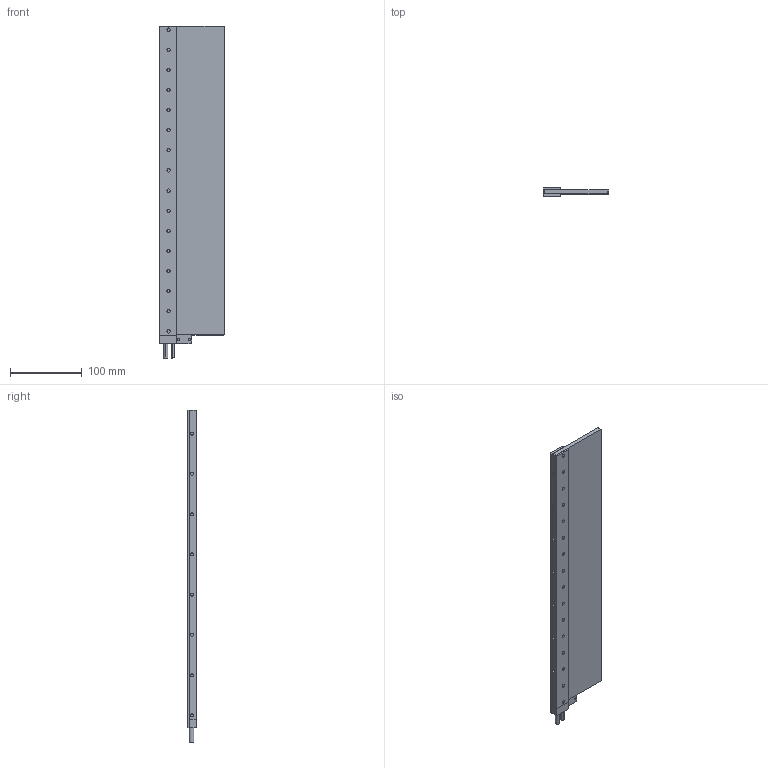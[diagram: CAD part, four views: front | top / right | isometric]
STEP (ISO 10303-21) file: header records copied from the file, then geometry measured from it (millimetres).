
FILE_DESCRIPTION (( 'STEP AP203' ), '1' );
FILE_NAME ('IL15-91 assembly 3D.STEP', '2018-08-11T03:32:26', ( '' ), ( '' ), 'SwSTEP 2.0', 'SolidWorks 2018', '' );
FILE_SCHEMA (( 'CONFIG_CONTROL_DESIGN' ));
Length unit declared in the file: millimetre
Products named in the file (1): IL15-91 assembly 3D
Bounding box: 91.3 x 12 x 462 mm (x, y, z)
Volume: 286578.6 mm3; surface area: 140135.2 mm2
Topology: 3 solids, 3 shells, 327 faces, 916 edges, 589 vertices
Faces by surface type: cylinder 192, plane 99, cone 36
Entity records: 10888 total; most frequent: CARTESIAN_POINT 1986, DIRECTION 1903, ORIENTED_EDGE 1800, EDGE_CURVE 900, AXIS2_PLACEMENT_3D 706, VERTEX_POINT 589, VECTOR 491, LINE 491
